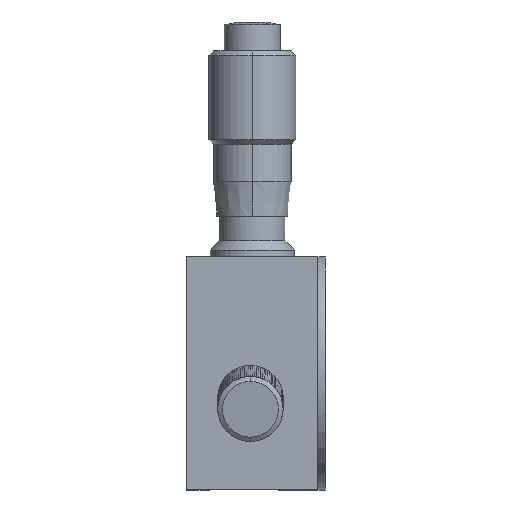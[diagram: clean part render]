
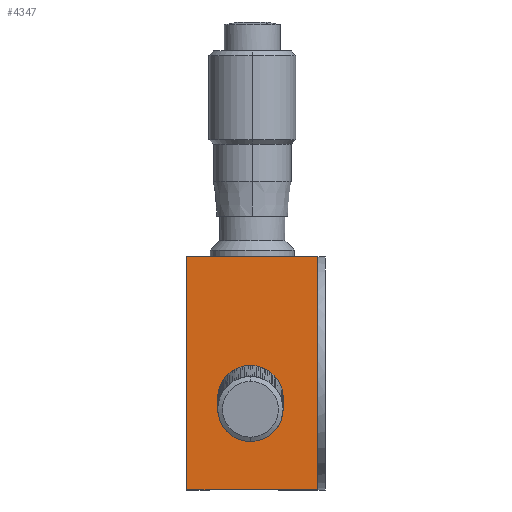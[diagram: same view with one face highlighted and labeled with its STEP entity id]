
A CAD part, front view. The second image highlights one B-rep face of the part: STEP entity #4347.
In plain terms, the highlighted planar face has unit normal (0, -1, 0).
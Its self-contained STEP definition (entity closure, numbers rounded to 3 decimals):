
#487 = EDGE_CURVE ( 'NONE', #502, #503, #6482, .T. ) ;
#502 = VERTEX_POINT ( 'NONE', #6508 ) ;
#503 = VERTEX_POINT ( 'NONE', #6502 ) ;
#4166 = EDGE_CURVE ( 'NONE', #503, #502, #12765, .T. ) ;
#4204 = VERTEX_POINT ( 'NONE', #12828 ) ;
#4206 = EDGE_CURVE ( 'NONE', #4207, #4204, #12827, .T. ) ;
#4207 = VERTEX_POINT ( 'NONE', #12823 ) ;
#4347 = ADVANCED_FACE ( 'NONE', ( #13075, #13074 ), #13073, .T. ) ;
#4348 = EDGE_LOOP ( 'NONE', ( #4349, #4350 ) ) ;
#4349 = ORIENTED_EDGE ( 'NONE', *, *, #4166, .T. ) ;
#4350 = ORIENTED_EDGE ( 'NONE', *, *, #487, .T. ) ;
#4351 = EDGE_LOOP ( 'NONE', ( #4352, #4353, #4354, #4357 ) ) ;
#4352 = ORIENTED_EDGE ( 'NONE', *, *, #4368, .T. ) ;
#4353 = ORIENTED_EDGE ( 'NONE', *, *, #4206, .T. ) ;
#4354 = ORIENTED_EDGE ( 'NONE', *, *, #4355, .F. ) ;
#4355 = EDGE_CURVE ( 'NONE', #4356, #4204, #13068, .T. ) ;
#4356 = VERTEX_POINT ( 'NONE', #13064 ) ;
#4357 = ORIENTED_EDGE ( 'NONE', *, *, #4410, .F. ) ;
#4368 = EDGE_CURVE ( 'NONE', #4369, #4207, #13053, .T. ) ;
#4369 = VERTEX_POINT ( 'NONE', #13117 ) ;
#4410 = EDGE_CURVE ( 'NONE', #4369, #4356, #13179, .T. ) ;
#6478 = CARTESIAN_POINT ( 'NONE',  ( 18.585, 13.557, 16.263 ) ) ;
#6479 = CARTESIAN_POINT ( 'NONE',  ( 21.585, 13.557, 16.263 ) ) ;
#6480 = CARTESIAN_POINT ( 'NONE',  ( 21.585, 13.557, 19.287 ) ) ;
#6481 = CARTESIAN_POINT ( 'NONE',  ( 18.585, 13.557, 19.287 ) ) ;
#6482 =( BOUNDED_CURVE ( )  B_SPLINE_CURVE ( 3, ( #6481, #6480, #6479, #6478 ),
 .UNSPECIFIED., .F., .T. ) 
 B_SPLINE_CURVE_WITH_KNOTS ( ( 4, 4 ),
 ( 3.142, 6.283 ),
 .UNSPECIFIED. ) 
 CURVE ( )  GEOMETRIC_REPRESENTATION_ITEM ( )  RATIONAL_B_SPLINE_CURVE ( ( 1., 0.333, 0.333, 1. ) ) 
 REPRESENTATION_ITEM ( '' )  );
#6502 = CARTESIAN_POINT ( 'NONE',  ( 18.585, 13.557, 16.263 ) ) ;
#6508 = CARTESIAN_POINT ( 'NONE',  ( 18.585, 13.557, 19.287 ) ) ;
#11974 = CARTESIAN_POINT ( 'NONE',  ( 18.585, 13.557, 16.263 ) ) ;
#12236 = CARTESIAN_POINT ( 'NONE',  ( 18.585, 13.557, 19.287 ) ) ;
#12237 = CARTESIAN_POINT ( 'NONE',  ( 15.585, 13.557, 19.287 ) ) ;
#12242 = CARTESIAN_POINT ( 'NONE',  ( 15.585, 13.557, 16.263 ) ) ;
#12765 =( BOUNDED_CURVE ( )  B_SPLINE_CURVE ( 3, ( #11974, #12242, #12237, #12236 ),
 .UNSPECIFIED., .F., .T. ) 
 B_SPLINE_CURVE_WITH_KNOTS ( ( 4, 4 ),
 ( 0., 3.142 ),
 .UNSPECIFIED. ) 
 CURVE ( )  GEOMETRIC_REPRESENTATION_ITEM ( )  RATIONAL_B_SPLINE_CURVE ( ( 1., 0.333, 0.333, 1. ) ) 
 REPRESENTATION_ITEM ( '' )  );
#12823 = CARTESIAN_POINT ( 'NONE',  ( 25.785, 13.557, 7.766 ) ) ;
#12824 = DIRECTION ( 'NONE',  ( 0., 0., 1. ) ) ;
#12825 = VECTOR ( 'NONE', #12824, 1000. ) ;
#12826 = CARTESIAN_POINT ( 'NONE',  ( 25.785, 13.557, 7.766 ) ) ;
#12827 = LINE ( 'NONE', #12826, #12825 ) ;
#12828 = CARTESIAN_POINT ( 'NONE',  ( 25.785, 13.557, 32.766 ) ) ;
#13053 = LINE ( 'NONE', #13120, #13119 ) ;
#13064 = CARTESIAN_POINT ( 'NONE',  ( 11.785, 13.557, 32.766 ) ) ;
#13065 = DIRECTION ( 'NONE',  ( 1., 0., 0. ) ) ;
#13066 = VECTOR ( 'NONE', #13065, 1000. ) ;
#13067 = CARTESIAN_POINT ( 'NONE',  ( 17.807, 13.557, 32.766 ) ) ;
#13068 = LINE ( 'NONE', #13067, #13066 ) ;
#13069 = DIRECTION ( 'NONE',  ( 0., 0., -1. ) ) ;
#13070 = DIRECTION ( 'NONE',  ( 0., -1., 0. ) ) ;
#13071 = CARTESIAN_POINT ( 'NONE',  ( 25.785, 13.557, 7.766 ) ) ;
#13072 = AXIS2_PLACEMENT_3D ( 'NONE', #13071, #13070, #13069 ) ;
#13073 = PLANE ( 'NONE',  #13072 ) ;
#13074 = FACE_OUTER_BOUND ( 'NONE', #4351, .T. ) ;
#13075 = FACE_BOUND ( 'NONE', #4348, .T. ) ;
#13117 = CARTESIAN_POINT ( 'NONE',  ( 11.785, 13.557, 7.766 ) ) ;
#13118 = DIRECTION ( 'NONE',  ( 1., 0., 0. ) ) ;
#13119 = VECTOR ( 'NONE', #13118, 1000. ) ;
#13120 = CARTESIAN_POINT ( 'NONE',  ( 25.785, 13.557, 7.766 ) ) ;
#13176 = DIRECTION ( 'NONE',  ( 0., 0., 1. ) ) ;
#13177 = VECTOR ( 'NONE', #13176, 1000. ) ;
#13178 = CARTESIAN_POINT ( 'NONE',  ( 11.785, 13.557, 7.766 ) ) ;
#13179 = LINE ( 'NONE', #13178, #13177 ) ;
